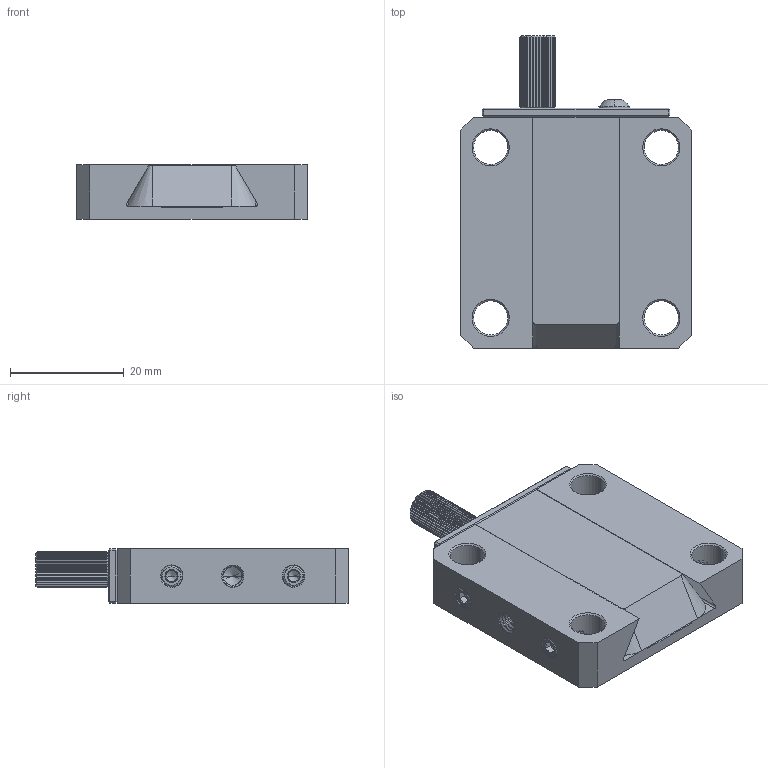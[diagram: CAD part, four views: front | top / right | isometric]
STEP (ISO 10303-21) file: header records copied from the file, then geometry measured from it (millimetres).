
FILE_DESCRIPTION((''),'2;1');
FILE_NAME('CFH30N-0001_ASM','2026-07-04T10:58:09',('R&D'),(''),'CREO PARAMETRIC BY PTC INC, 2021063','CREO PARAMETRIC BY PTC INC, 2021063','');
FILE_SCHEMA(('CONFIG_CONTROL_DESIGN'));
Products named in the file (14): CFH30N-0001-A2; CFH30N-0001-A3; CFH30N-0001-A4; CFH30N-0001-A5; CFH30N-0001-A6; CFH30N-0001-A7; CFH30N-0001-A8; CFH30N-0001-A9; CFH30N-0001-B1; CFH30N-0001-B2; CFH30N-0001-B3; CFH30N-0001-B4; CFH30N-0001-A1_ASM; CFH30N-0001_ASM
Assembly tree (13 placements, depth 3):
  CFH30N-0001_ASM
    CFH30N-0001-A1_ASM
      CFH30N-0001-A2
      CFH30N-0001-A3
      CFH30N-0001-A4
      CFH30N-0001-A5
      CFH30N-0001-A6
      CFH30N-0001-A7
      CFH30N-0001-A8
      CFH30N-0001-A9
      CFH30N-0001-B1
      CFH30N-0001-B2
      CFH30N-0001-B3
      CFH30N-0001-B4
Bounding box: 40.64 x 54.94 x 9.53 mm (x, y, z)
Volume: 14355.4 mm3; surface area: 10818.8 mm2
Topology: 11 solids, 11 shells, 861 faces, 2278 edges, 1422 vertices
Faces by surface type: cylinder 305, plane 216, bspline 192, cone 142, sphere 6
Entity records: 61522 total; most frequent: CARTESIAN_POINT 42492, ORIENTED_EDGE 4504, DIRECTION 2948, EDGE_CURVE 2252, VERTEX_POINT 1422, B_SPLINE_CURVE_WITH_KNOTS 1075, AXIS2_PLACEMENT_3D 1063, EDGE_LOOP 894
